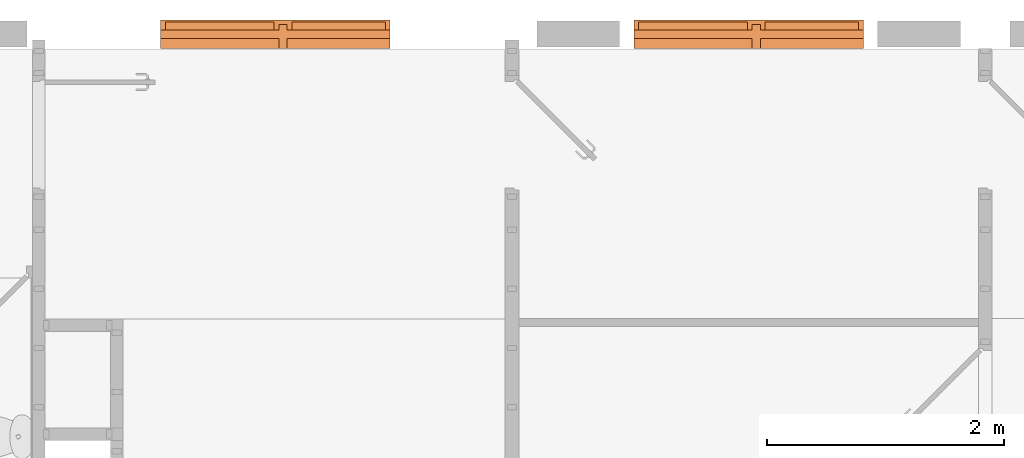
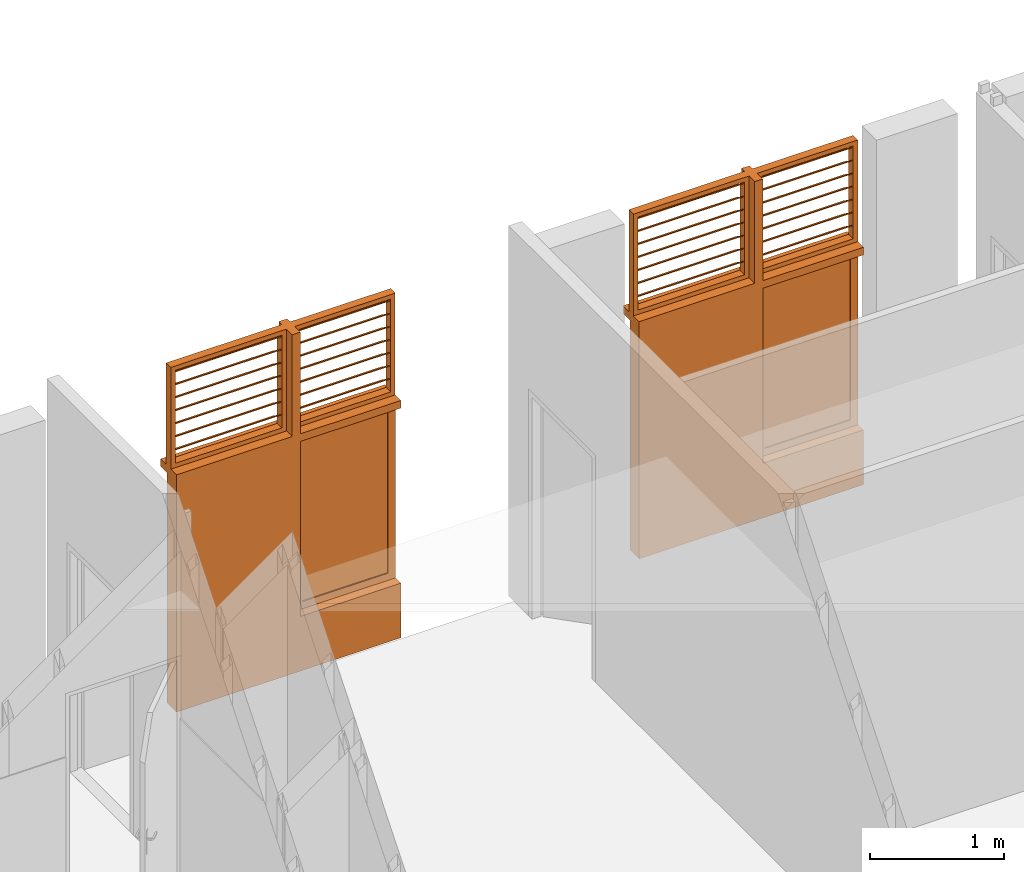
# One storey, part 18 of 20: 2 proxies.
"""IFC2X3 building model written with IfcOpenShell, lengths in metres."""

from ifc_helpers import new_model, entity, si_unit, converted_unit, derived_unit, direction, frame, origin, place, context, subcontext, project, spatial, faceted_brep, source, transform, mapped, material, material_list, type_object, type_shapes, element, save


model = new_model("IFC2X3")

# Units and contexts
model_context = context("Model", 3, precision=1e-05, world=origin(), true_north=direction((6.12303176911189e-17, 1.0)))
body_context = subcontext(model_context, "Body", "Model", "MODEL_VIEW")
ifc_project = project(units=[si_unit("LENGTHUNIT", "METRE"), si_unit("AREAUNIT", "SQUARE_METRE"), si_unit("VOLUMEUNIT", "CUBIC_METRE"), converted_unit("PLANEANGLEUNIT", "DEGREE", entity("IfcRatioMeasure", 0.0174532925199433), si_unit("PLANEANGLEUNIT", "RADIAN"), dimensions=[0, 0, 0, 0, 0, 0, 0]), si_unit("MASSUNIT", "GRAM", prefix="KILO"), derived_unit("MASSDENSITYUNIT", [(si_unit("MASSUNIT", "GRAM", prefix="KILO"), 1), (si_unit("LENGTHUNIT", "METRE"), -3)]), si_unit("TIMEUNIT", "SECOND"), si_unit("FREQUENCYUNIT", "HERTZ"), si_unit("THERMODYNAMICTEMPERATUREUNIT", "DEGREE_CELSIUS"), derived_unit("THERMALTRANSMITTANCEUNIT", [(si_unit("MASSUNIT", "GRAM", prefix="KILO"), 1), (si_unit("THERMODYNAMICTEMPERATUREUNIT", "KELVIN"), -1), (si_unit("TIMEUNIT", "SECOND"), -3)]), derived_unit("VOLUMETRICFLOWRATEUNIT", [(si_unit("LENGTHUNIT", "METRE"), 3), (si_unit("TIMEUNIT", "SECOND"), -1)]), si_unit("ELECTRICCURRENTUNIT", "AMPERE"), si_unit("ELECTRICVOLTAGEUNIT", "VOLT"), si_unit("POWERUNIT", "WATT"), si_unit("FORCEUNIT", "NEWTON", prefix="KILO"), si_unit("ILLUMINANCEUNIT", "LUX"), si_unit("LUMINOUSFLUXUNIT", "LUMEN"), si_unit("LUMINOUSINTENSITYUNIT", "CANDELA"), derived_unit("USERDEFINED", [(si_unit("MASSUNIT", "GRAM", prefix="KILO"), -1), (si_unit("LENGTHUNIT", "METRE"), -2), (si_unit("TIMEUNIT", "SECOND"), 3), (si_unit("LUMINOUSFLUXUNIT", "LUMEN"), 1)]), derived_unit("LINEARVELOCITYUNIT", [(si_unit("LENGTHUNIT", "METRE"), 1), (si_unit("TIMEUNIT", "SECOND"), -1)]), si_unit("PRESSUREUNIT", "PASCAL"), derived_unit("USERDEFINED", [(si_unit("LENGTHUNIT", "METRE"), -2), (si_unit("MASSUNIT", "GRAM", prefix="KILO"), 1), (si_unit("TIMEUNIT", "SECOND"), -2)])], contexts=[model_context])

# Site, building, storey
site_placement = place(None, origin())
site = spatial("IfcSite", under=ifc_project, at=site_placement, Name="Surface", CompositionType="ELEMENT")
building_placement = place(site_placement, origin())
building = spatial("IfcBuilding", under=site, at=building_placement, Name="ExPREF", CompositionType="ELEMENT")
storey_placement = place(building_placement, frame((0.0, 0.0, 4.27)))
storey = spatial("IfcBuildingStorey", under=building, at=storey_placement, Name="R+1", CompositionType="ELEMENT", Elevation=4.27)

# Proxies
ifc_material_1 = material(Name="AA-Aluminium")
ifc_material_2 = material(Name="AA-vitrage")
ifc_material_3 = material(Name="AA-bois menuiseries")
ifc_material_list_1 = material_list([ifc_material_1, ifc_material_2, ifc_material_3])
ifc_material_list_2 = material_list([ifc_material_1, ifc_material_2, ifc_material_3])
building_element_proxy_type = type_object("IfcBuildingElementProxyType", Name="R+2 porte + fenetre", PredefinedType="NOTDEFINED", material=ifc_material_list_2)
shared_shape = source(origin(), body_context, "Body", "Brep", [
    faceted_brep([(0.139999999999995, 0.113917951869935, 3.02140538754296), (0.139999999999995, 0.0970656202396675, 3.03320551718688), (0.139999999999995, 0.101483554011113, 3.03951498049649), (0.139999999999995, 0.11833588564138, 3.02771485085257), (0.930000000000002, 0.113917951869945, 3.02140538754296), (0.930000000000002, 0.118335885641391, 3.02771485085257), (0.930000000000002, 0.101483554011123, 3.03951498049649), (0.930000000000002, 0.0970656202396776, 3.03320551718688)], [[[0, 1, 2, 3]], [[4, 5, 6, 7]], [[1, 0, 4, 7]], [[2, 1, 7, 6]], [[3, 2, 6, 5]], [[0, 3, 5, 4]]]),
    faceted_brep([(0.139999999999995, 0.114720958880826, 3.02255220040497), (0.139999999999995, 0.117588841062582, 3.02664796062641), (0.139999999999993, 0.223609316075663, 2.95241162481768), (0.139999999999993, 0.220741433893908, 2.94831586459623), (0.930000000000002, 0.114720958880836, 3.02255220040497), (0.93, 0.220741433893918, 2.94831586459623), (0.93, 0.223609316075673, 2.95241162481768), (0.930000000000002, 0.117588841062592, 3.02664796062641)], [[[0, 1, 2, 3]], [[4, 5, 6, 7]], [[1, 0, 4, 7]], [[2, 1, 7, 6]], [[3, 2, 6, 5]], [[0, 3, 5, 4]]]),
    faceted_brep([(-0.930000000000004, 0.113917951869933, 3.02140538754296), (-0.930000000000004, 0.097065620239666, 3.03320551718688), (-0.930000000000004, 0.101483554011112, 3.03951498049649), (-0.930000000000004, 0.118335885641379, 3.02771485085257), (-0.00999999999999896, 0.113917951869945, 3.02140538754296), (-0.00999999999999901, 0.118335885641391, 3.02771485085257), (-0.0099999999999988, 0.101483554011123, 3.03951498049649), (-0.00999999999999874, 0.0970656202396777, 3.03320551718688)], [[[0, 1, 2, 3]], [[4, 5, 6, 7]], [[1, 0, 4, 7]], [[2, 1, 7, 6]], [[3, 2, 6, 5]], [[0, 3, 5, 4]]]),
    faceted_brep([(-0.930000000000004, 0.114720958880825, 3.02255220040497), (-0.930000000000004, 0.11758884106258, 3.02664796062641), (-0.930000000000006, 0.223609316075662, 2.95241162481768), (-0.930000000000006, 0.220741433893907, 2.94831586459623), (-0.00999999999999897, 0.114720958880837, 3.02255220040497), (-0.0100000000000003, 0.220741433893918, 2.94831586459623), (-0.0100000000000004, 0.223609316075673, 2.95241162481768), (-0.009999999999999, 0.117588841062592, 3.02664796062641)], [[[0, 1, 2, 3]], [[4, 5, 6, 7]], [[1, 0, 4, 7]], [[2, 1, 7, 6]], [[3, 2, 6, 5]], [[0, 3, 5, 4]]]),
    faceted_brep([(0.139999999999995, 0.113917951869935, 2.90240538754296), (0.139999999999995, 0.0970656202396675, 2.91420551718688), (0.139999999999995, 0.101483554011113, 2.92051498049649), (0.139999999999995, 0.11833588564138, 2.90871485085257), (0.930000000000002, 0.113917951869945, 2.90240538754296), (0.930000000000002, 0.118335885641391, 2.90871485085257), (0.930000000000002, 0.101483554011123, 2.92051498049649), (0.930000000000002, 0.0970656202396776, 2.91420551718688)], [[[0, 1, 2, 3]], [[4, 5, 6, 7]], [[1, 0, 4, 7]], [[2, 1, 7, 6]], [[3, 2, 6, 5]], [[0, 3, 5, 4]]]),
    faceted_brep([(0.139999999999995, 0.114720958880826, 2.90355220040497), (0.139999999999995, 0.117588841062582, 2.90764796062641), (0.139999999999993, 0.223609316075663, 2.83341162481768), (0.139999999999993, 0.220741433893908, 2.82931586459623), (0.930000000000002, 0.114720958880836, 2.90355220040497), (0.93, 0.220741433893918, 2.82931586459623), (0.93, 0.223609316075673, 2.83341162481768), (0.930000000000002, 0.117588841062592, 2.90764796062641)], [[[0, 1, 2, 3]], [[4, 5, 6, 7]], [[1, 0, 4, 7]], [[2, 1, 7, 6]], [[3, 2, 6, 5]], [[0, 3, 5, 4]]]),
    faceted_brep([(-0.930000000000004, 0.113917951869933, 2.90240538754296), (-0.930000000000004, 0.097065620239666, 2.91420551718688), (-0.930000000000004, 0.101483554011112, 2.92051498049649), (-0.930000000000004, 0.118335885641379, 2.90871485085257), (-0.00999999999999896, 0.113917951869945, 2.90240538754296), (-0.00999999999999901, 0.118335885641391, 2.90871485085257), (-0.0099999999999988, 0.101483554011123, 2.92051498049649), (-0.00999999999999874, 0.0970656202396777, 2.91420551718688)], [[[0, 1, 2, 3]], [[4, 5, 6, 7]], [[1, 0, 4, 7]], [[2, 1, 7, 6]], [[3, 2, 6, 5]], [[0, 3, 5, 4]]]),
    faceted_brep([(-0.930000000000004, 0.114720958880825, 2.90355220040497), (-0.930000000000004, 0.11758884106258, 2.90764796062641), (-0.930000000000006, 0.223609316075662, 2.83341162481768), (-0.930000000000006, 0.220741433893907, 2.82931586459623), (-0.00999999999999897, 0.114720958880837, 2.90355220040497), (-0.0100000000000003, 0.220741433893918, 2.82931586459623), (-0.0100000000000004, 0.223609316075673, 2.83341162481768), (-0.009999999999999, 0.117588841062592, 2.90764796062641)], [[[0, 1, 2, 3]], [[4, 5, 6, 7]], [[1, 0, 4, 7]], [[2, 1, 7, 6]], [[3, 2, 6, 5]], [[0, 3, 5, 4]]]),
    faceted_brep([(0.139999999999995, 0.113917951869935, 2.78340538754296), (0.139999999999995, 0.0970656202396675, 2.79520551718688), (0.139999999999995, 0.101483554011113, 2.80151498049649), (0.139999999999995, 0.11833588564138, 2.78971485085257), (0.930000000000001, 0.113917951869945, 2.78340538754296), (0.930000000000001, 0.118335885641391, 2.78971485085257), (0.930000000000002, 0.101483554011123, 2.80151498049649), (0.930000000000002, 0.0970656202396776, 2.79520551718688)], [[[0, 1, 2, 3]], [[4, 5, 6, 7]], [[1, 0, 4, 7]], [[2, 1, 7, 6]], [[3, 2, 6, 5]], [[0, 3, 5, 4]]]),
    faceted_brep([(0.139999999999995, 0.114720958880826, 2.78455220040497), (0.139999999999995, 0.117588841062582, 2.78864796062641), (0.139999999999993, 0.223609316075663, 2.71441162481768), (0.139999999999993, 0.220741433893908, 2.71031586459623), (0.930000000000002, 0.114720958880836, 2.78455220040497), (0.93, 0.220741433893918, 2.71031586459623), (0.93, 0.223609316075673, 2.71441162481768), (0.930000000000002, 0.117588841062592, 2.78864796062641)], [[[0, 1, 2, 3]], [[4, 5, 6, 7]], [[1, 0, 4, 7]], [[2, 1, 7, 6]], [[3, 2, 6, 5]], [[0, 3, 5, 4]]]),
    faceted_brep([(-0.930000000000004, 0.113917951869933, 2.78340538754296), (-0.930000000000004, 0.097065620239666, 2.79520551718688), (-0.930000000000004, 0.101483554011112, 2.80151498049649), (-0.930000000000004, 0.118335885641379, 2.78971485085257), (-0.00999999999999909, 0.113917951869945, 2.78340538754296), (-0.00999999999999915, 0.118335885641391, 2.78971485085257), (-0.00999999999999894, 0.101483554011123, 2.80151498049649), (-0.00999999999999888, 0.0970656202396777, 2.79520551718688)], [[[0, 1, 2, 3]], [[4, 5, 6, 7]], [[1, 0, 4, 7]], [[2, 1, 7, 6]], [[3, 2, 6, 5]], [[0, 3, 5, 4]]]),
    faceted_brep([(-0.930000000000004, 0.114720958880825, 2.78455220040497), (-0.930000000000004, 0.11758884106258, 2.78864796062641), (-0.930000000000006, 0.223609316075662, 2.71441162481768), (-0.930000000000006, 0.220741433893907, 2.71031586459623), (-0.0099999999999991, 0.114720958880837, 2.78455220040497), (-0.0100000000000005, 0.220741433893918, 2.71031586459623), (-0.0100000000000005, 0.223609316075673, 2.71441162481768), (-0.00999999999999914, 0.117588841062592, 2.78864796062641)], [[[0, 1, 2, 3]], [[4, 5, 6, 7]], [[1, 0, 4, 7]], [[2, 1, 7, 6]], [[3, 2, 6, 5]], [[0, 3, 5, 4]]]),
    faceted_brep([(-0.930000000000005, 0.113917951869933, 2.66440538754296), (-0.930000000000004, 0.097065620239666, 2.67620551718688), (-0.930000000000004, 0.101483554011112, 2.68251498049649), (-0.930000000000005, 0.118335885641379, 2.67071485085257), (-0.00999999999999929, 0.113917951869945, 2.66440538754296), (-0.00999999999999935, 0.118335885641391, 2.67071485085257), (-0.00999999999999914, 0.101483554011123, 2.68251498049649), (-0.00999999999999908, 0.0970656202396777, 2.67620551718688)], [[[0, 1, 2, 3]], [[4, 5, 6, 7]], [[1, 0, 4, 7]], [[2, 1, 7, 6]], [[3, 2, 6, 5]], [[0, 3, 5, 4]]]),
    faceted_brep([(-0.930000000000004, 0.114720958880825, 2.66555220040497), (-0.930000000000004, 0.11758884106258, 2.66964796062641), (-0.930000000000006, 0.223609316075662, 2.59541162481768), (-0.930000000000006, 0.220741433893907, 2.59131586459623), (-0.0099999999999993, 0.114720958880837, 2.66555220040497), (-0.0100000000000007, 0.220741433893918, 2.59131586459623), (-0.0100000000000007, 0.223609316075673, 2.59541162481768), (-0.00999999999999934, 0.117588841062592, 2.66964796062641)], [[[0, 1, 2, 3]], [[4, 5, 6, 7]], [[1, 0, 4, 7]], [[2, 1, 7, 6]], [[3, 2, 6, 5]], [[0, 3, 5, 4]]]),
    faceted_brep([(-0.930000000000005, 0.113917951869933, 2.54540538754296), (-0.930000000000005, 0.097065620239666, 2.55720551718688), (-0.930000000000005, 0.101483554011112, 2.56351498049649), (-0.930000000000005, 0.118335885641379, 2.55171485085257), (-0.0099999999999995, 0.113917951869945, 2.54540538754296), (-0.00999999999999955, 0.118335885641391, 2.55171485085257), (-0.00999999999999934, 0.101483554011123, 2.56351498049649), (-0.00999999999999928, 0.0970656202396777, 2.55720551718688)], [[[0, 1, 2, 3]], [[4, 5, 6, 7]], [[1, 0, 4, 7]], [[2, 1, 7, 6]], [[3, 2, 6, 5]], [[0, 3, 5, 4]]]),
    faceted_brep([(-0.930000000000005, 0.114720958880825, 2.54655220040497), (-0.930000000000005, 0.11758884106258, 2.55064796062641), (-0.930000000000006, 0.223609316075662, 2.47641162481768), (-0.930000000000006, 0.220741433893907, 2.47231586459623), (-0.00999999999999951, 0.114720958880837, 2.54655220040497), (-0.0100000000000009, 0.220741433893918, 2.47231586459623), (-0.0100000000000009, 0.223609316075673, 2.47641162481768), (-0.00999999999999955, 0.117588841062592, 2.55064796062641)], [[[0, 1, 2, 3]], [[4, 5, 6, 7]], [[1, 0, 4, 7]], [[2, 1, 7, 6]], [[3, 2, 6, 5]], [[0, 3, 5, 4]]]),
    faceted_brep([(0.139999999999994, 0.113917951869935, 2.66440538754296), (0.139999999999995, 0.0970656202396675, 2.67620551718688), (0.139999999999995, 0.101483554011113, 2.68251498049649), (0.139999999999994, 0.11833588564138, 2.67071485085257), (0.930000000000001, 0.113917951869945, 2.66440538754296), (0.930000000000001, 0.118335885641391, 2.67071485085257), (0.930000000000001, 0.101483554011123, 2.68251498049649), (0.930000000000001, 0.0970656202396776, 2.67620551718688)], [[[0, 1, 2, 3]], [[4, 5, 6, 7]], [[1, 0, 4, 7]], [[2, 1, 7, 6]], [[3, 2, 6, 5]], [[0, 3, 5, 4]]]),
    faceted_brep([(0.139999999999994, 0.114720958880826, 2.66555220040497), (0.139999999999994, 0.117588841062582, 2.66964796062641), (0.139999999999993, 0.223609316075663, 2.59541162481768), (0.139999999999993, 0.220741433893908, 2.59131586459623), (0.930000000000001, 0.114720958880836, 2.66555220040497), (0.93, 0.220741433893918, 2.59131586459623), (0.93, 0.223609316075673, 2.59541162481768), (0.930000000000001, 0.117588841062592, 2.66964796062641)], [[[0, 1, 2, 3]], [[4, 5, 6, 7]], [[1, 0, 4, 7]], [[2, 1, 7, 6]], [[3, 2, 6, 5]], [[0, 3, 5, 4]]]),
    faceted_brep([(0.139999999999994, 0.113917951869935, 2.54540538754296), (0.139999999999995, 0.0970656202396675, 2.55720551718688), (0.139999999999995, 0.101483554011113, 2.56351498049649), (0.139999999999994, 0.11833588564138, 2.55171485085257), (0.930000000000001, 0.113917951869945, 2.54540538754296), (0.930000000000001, 0.118335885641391, 2.55171485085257), (0.930000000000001, 0.101483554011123, 2.56351498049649), (0.930000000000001, 0.0970656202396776, 2.55720551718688)], [[[0, 1, 2, 3]], [[4, 5, 6, 7]], [[1, 0, 4, 7]], [[2, 1, 7, 6]], [[3, 2, 6, 5]], [[0, 3, 5, 4]]]),
    faceted_brep([(0.139999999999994, 0.114720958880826, 2.54655220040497), (0.139999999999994, 0.117588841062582, 2.55064796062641), (0.139999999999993, 0.223609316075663, 2.47641162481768), (0.139999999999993, 0.220741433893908, 2.47231586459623), (0.930000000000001, 0.114720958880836, 2.54655220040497), (0.93, 0.220741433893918, 2.47231586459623), (0.93, 0.223609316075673, 2.47641162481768), (0.930000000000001, 0.117588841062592, 2.55064796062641)], [[[0, 1, 2, 3]], [[4, 5, 6, 7]], [[1, 0, 4, 7]], [[2, 1, 7, 6]], [[3, 2, 6, 5]], [[0, 3, 5, 4]]]),
    faceted_brep([(0.139999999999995, 0.113917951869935, 2.42640538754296), (0.139999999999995, 0.0970656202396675, 2.43820551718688), (0.139999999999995, 0.101483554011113, 2.44451498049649), (0.139999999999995, 0.11833588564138, 2.43271485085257), (0.930000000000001, 0.113917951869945, 2.42640538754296), (0.930000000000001, 0.118335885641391, 2.43271485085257), (0.930000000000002, 0.101483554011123, 2.44451498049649), (0.930000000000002, 0.0970656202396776, 2.43820551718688)], [[[0, 1, 2, 3]], [[4, 5, 6, 7]], [[1, 0, 4, 7]], [[2, 1, 7, 6]], [[3, 2, 6, 5]], [[0, 3, 5, 4]]]),
    faceted_brep([(0.139999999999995, 0.114720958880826, 2.42755220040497), (0.139999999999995, 0.117588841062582, 2.43164796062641), (0.139999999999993, 0.223609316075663, 2.35741162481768), (0.139999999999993, 0.220741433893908, 2.35331586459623), (0.930000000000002, 0.114720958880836, 2.42755220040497), (0.93, 0.220741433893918, 2.35331586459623), (0.93, 0.223609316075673, 2.35741162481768), (0.930000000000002, 0.117588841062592, 2.43164796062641)], [[[0, 1, 2, 3]], [[4, 5, 6, 7]], [[1, 0, 4, 7]], [[2, 1, 7, 6]], [[3, 2, 6, 5]], [[0, 3, 5, 4]]]),
    faceted_brep([(0.139999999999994, 0.113917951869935, 2.30740538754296), (0.139999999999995, 0.0970656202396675, 2.31920551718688), (0.139999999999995, 0.101483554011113, 2.32551498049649), (0.139999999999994, 0.11833588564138, 2.31371485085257), (0.930000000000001, 0.113917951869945, 2.30740538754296), (0.930000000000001, 0.118335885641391, 2.31371485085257), (0.930000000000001, 0.101483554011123, 2.32551498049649), (0.930000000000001, 0.0970656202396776, 2.31920551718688)], [[[0, 1, 2, 3]], [[4, 5, 6, 7]], [[1, 0, 4, 7]], [[2, 1, 7, 6]], [[3, 2, 6, 5]], [[0, 3, 5, 4]]]),
    faceted_brep([(0.139999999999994, 0.114720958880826, 2.30855220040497), (0.139999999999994, 0.117588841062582, 2.31264796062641), (0.139999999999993, 0.223609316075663, 2.23841162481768), (0.139999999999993, 0.220741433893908, 2.23431586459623), (0.930000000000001, 0.114720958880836, 2.30855220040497), (0.93, 0.220741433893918, 2.23431586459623), (0.93, 0.223609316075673, 2.23841162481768), (0.930000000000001, 0.117588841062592, 2.31264796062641)], [[[0, 1, 2, 3]], [[4, 5, 6, 7]], [[1, 0, 4, 7]], [[2, 1, 7, 6]], [[3, 2, 6, 5]], [[0, 3, 5, 4]]]),
    faceted_brep([(-0.930000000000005, 0.113917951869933, 2.42640538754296), (-0.930000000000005, 0.097065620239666, 2.43820551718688), (-0.930000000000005, 0.101483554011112, 2.44451498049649), (-0.930000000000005, 0.118335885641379, 2.43271485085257), (-0.0099999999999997, 0.113917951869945, 2.42640538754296), (-0.00999999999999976, 0.118335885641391, 2.43271485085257), (-0.00999999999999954, 0.101483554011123, 2.44451498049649), (-0.00999999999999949, 0.0970656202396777, 2.43820551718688)], [[[0, 1, 2, 3]], [[4, 5, 6, 7]], [[1, 0, 4, 7]], [[2, 1, 7, 6]], [[3, 2, 6, 5]], [[0, 3, 5, 4]]]),
    faceted_brep([(-0.930000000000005, 0.114720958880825, 2.42755220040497), (-0.930000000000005, 0.11758884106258, 2.43164796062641), (-0.930000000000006, 0.223609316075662, 2.35741162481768), (-0.930000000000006, 0.220741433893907, 2.35331586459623), (-0.00999999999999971, 0.114720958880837, 2.42755220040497), (-0.0100000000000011, 0.220741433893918, 2.35331586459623), (-0.0100000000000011, 0.223609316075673, 2.35741162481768), (-0.00999999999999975, 0.117588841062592, 2.43164796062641)], [[[0, 1, 2, 3]], [[4, 5, 6, 7]], [[1, 0, 4, 7]], [[2, 1, 7, 6]], [[3, 2, 6, 5]], [[0, 3, 5, 4]]]),
    faceted_brep([(-0.930000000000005, 0.113917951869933, 2.30740538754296), (-0.930000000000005, 0.097065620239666, 2.31920551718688), (-0.930000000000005, 0.101483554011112, 2.32551498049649), (-0.930000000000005, 0.118335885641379, 2.31371485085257), (-0.0099999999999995, 0.113917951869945, 2.30740538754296), (-0.00999999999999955, 0.118335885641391, 2.31371485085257), (-0.00999999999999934, 0.101483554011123, 2.32551498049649), (-0.00999999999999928, 0.0970656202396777, 2.31920551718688)], [[[0, 1, 2, 3]], [[4, 5, 6, 7]], [[1, 0, 4, 7]], [[2, 1, 7, 6]], [[3, 2, 6, 5]], [[0, 3, 5, 4]]]),
    faceted_brep([(-0.930000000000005, 0.114720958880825, 2.30855220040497), (-0.930000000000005, 0.11758884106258, 2.31264796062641), (-0.930000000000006, 0.223609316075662, 2.23841162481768), (-0.930000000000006, 0.220741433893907, 2.23431586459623), (-0.00999999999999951, 0.114720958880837, 2.30855220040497), (-0.0100000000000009, 0.220741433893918, 2.23431586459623), (-0.0100000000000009, 0.223609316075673, 2.23841162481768), (-0.00999999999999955, 0.117588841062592, 2.31264796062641)], [[[0, 1, 2, 3]], [[4, 5, 6, 7]], [[1, 0, 4, 7]], [[2, 1, 7, 6]], [[3, 2, 6, 5]], [[0, 3, 5, 4]]]),
    faceted_brep([(0.904999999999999, 0.0900000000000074, 2.03499999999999), (0.164999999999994, 0.0900000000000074, 2.03499999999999), (0.164999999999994, 0.0900000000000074, 0.564999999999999), (0.904999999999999, 0.0900000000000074, 0.564999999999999), (0.904999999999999, 0.110000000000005, 2.03499999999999), (0.904999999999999, 0.110000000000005, 0.564999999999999), (0.164999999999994, 0.110000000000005, 0.564999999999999), (0.164999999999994, 0.110000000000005, 2.03499999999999)], [[[0, 1, 2, 3]], [[4, 5, 6, 7]], [[0, 4, 7, 1]], [[1, 7, 6, 2]], [[2, 6, 5, 3]], [[3, 5, 4, 0]]]),
    faceted_brep([(0.934999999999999, 0.0800000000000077, 2.065), (0.934999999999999, 0.0800000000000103, 0.534999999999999), (0.934999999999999, 0.120000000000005, 0.534999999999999), (0.934999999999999, 0.120000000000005, 2.065), (0.904999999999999, 0.120000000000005, 2.035), (0.904999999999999, 0.120000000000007, 0.564999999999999), (0.904999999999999, 0.0800000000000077, 0.564999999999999), (0.904999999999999, 0.0800000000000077, 2.03499999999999), (0.134999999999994, 0.0800000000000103, 0.534999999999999), (0.134999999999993, 0.120000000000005, 0.534999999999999), (0.164999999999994, 0.120000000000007, 0.564999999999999), (0.164999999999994, 0.0800000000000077, 0.564999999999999), (0.134999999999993, 0.0800000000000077, 2.065), (0.134999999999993, 0.120000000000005, 2.065), (0.164999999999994, 0.120000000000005, 2.035), (0.164999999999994, 0.0800000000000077, 2.03499999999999)], [[[0, 1, 2, 3]], [[4, 5, 6, 7]], [[1, 8, 9, 2]], [[5, 10, 11, 6]], [[8, 12, 13, 9]], [[10, 14, 15, 11]], [[3, 2, 9, 13], [5, 4, 14, 10]], [[12, 0, 3, 13]], [[1, 0, 12, 8], [7, 6, 11, 15]], [[14, 4, 7, 15]]]),
    faceted_brep([(0.969999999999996, 0.140000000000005, 0.500000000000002), (0.969999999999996, 0.139999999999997, 2.09999999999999), (0.969999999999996, 0.080000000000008, 2.09999999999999), (0.969999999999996, 0.080000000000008, 0.500000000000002), (0.919999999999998, 0.120000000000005, 0.549999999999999), (0.919999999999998, 0.119999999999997, 2.05), (0.919999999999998, 0.140000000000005, 2.04999999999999), (0.919999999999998, 0.140000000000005, 0.549999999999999), (0.934999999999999, 0.0800000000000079, 0.534999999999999), (0.934999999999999, 0.08, 2.065), (0.934999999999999, 0.120000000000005, 2.065), (0.934999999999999, 0.120000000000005, 0.534999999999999), (0.099999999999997, 0.139999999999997, 2.09999999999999), (0.0999999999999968, 0.080000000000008, 2.09999999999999), (0.149999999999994, 0.119999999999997, 2.05), (0.149999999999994, 0.140000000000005, 2.04999999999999), (0.134999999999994, 0.08, 2.065), (0.134999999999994, 0.120000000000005, 2.065), (0.0999999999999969, 0.140000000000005, 0.500000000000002), (0.0999999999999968, 0.080000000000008, 0.500000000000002), (0.149999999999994, 0.120000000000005, 0.549999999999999), (0.149999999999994, 0.140000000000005, 0.549999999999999), (0.134999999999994, 0.0800000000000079, 0.534999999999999), (0.134999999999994, 0.120000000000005, 0.534999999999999)], [[[0, 1, 2, 3]], [[4, 5, 6, 7]], [[8, 9, 10, 11]], [[1, 12, 13, 2]], [[5, 14, 15, 6]], [[9, 16, 17, 10]], [[12, 18, 19, 13]], [[14, 20, 21, 15]], [[16, 22, 23, 17]], [[3, 2, 13, 19], [9, 8, 22, 16]], [[18, 0, 3, 19]], [[1, 0, 18, 12], [7, 6, 15, 21]], [[20, 4, 7, 21]], [[5, 4, 20, 14], [11, 10, 17, 23]], [[22, 8, 11, 23]]], outer=[[True], [True], [True], [True], [True], [True], [True], [True], [True], [True, False], [True], [True, False], [True], [False, True], [True]]),
    faceted_brep([(-0.97, 0.155, 2.17), (-0.97, 0.155, 3.10000000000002), (0.0299999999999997, 0.155, 3.10000000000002), (0.0299999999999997, 0.155, 2.17), (-0.930000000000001, 0.155, 2.21), (-0.0100000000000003, 0.155, 2.21), (-0.0100000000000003, 0.155, 3.06000000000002), (-0.930000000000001, 0.155, 3.06000000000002), (-0.930000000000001, 0.085000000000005, 2.21), (-0.930000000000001, 0.085000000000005, 3.06000000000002), (-0.0100000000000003, 0.085000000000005, 3.06000000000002), (-0.0100000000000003, 0.085000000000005, 2.21), (-0.97, 0.085000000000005, 2.17), (0.0299999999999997, 0.085000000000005, 2.17), (0.0299999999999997, 0.085000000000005, 3.10000000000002), (-0.97, 0.085000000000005, 3.10000000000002)], [[[0, 1, 2, 3], [4, 5, 6, 7]], [[8, 9, 10, 11], [12, 13, 14, 15]], [[3, 13, 12, 0]], [[4, 8, 11, 5]], [[0, 12, 15, 1]], [[7, 9, 8, 4]], [[2, 14, 13, 3]], [[5, 11, 10, 6]], [[1, 15, 14, 2]], [[6, 10, 9, 7]]], outer=[[True, False], [False, True], [True], [True], [True], [True], [True], [True], [True], [True]]),
    faceted_brep([(0.0999999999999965, 0.155, 2.16999999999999), (0.0999999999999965, 0.155, 3.10000000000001), (0.970000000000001, 0.155, 3.10000000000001), (0.970000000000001, 0.155, 2.16999999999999), (0.139999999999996, 0.155, 2.20999999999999), (0.930000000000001, 0.155, 2.20999999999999), (0.930000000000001, 0.155, 3.06000000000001), (0.139999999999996, 0.155, 3.06000000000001), (0.139999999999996, 0.085000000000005, 2.20999999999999), (0.139999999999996, 0.085000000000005, 3.06000000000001), (0.930000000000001, 0.085000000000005, 3.06000000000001), (0.930000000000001, 0.085000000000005, 2.20999999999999), (0.0999999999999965, 0.085000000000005, 2.16999999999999), (0.970000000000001, 0.085000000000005, 2.16999999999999), (0.970000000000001, 0.085000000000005, 3.10000000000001), (0.0999999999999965, 0.085000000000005, 3.10000000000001)], [[[0, 1, 2, 3], [4, 5, 6, 7]], [[8, 9, 10, 11], [12, 13, 14, 15]], [[3, 13, 12, 0]], [[2, 14, 13, 3]], [[5, 11, 10, 6]], [[4, 8, 11, 5]], [[0, 12, 15, 1]], [[7, 9, 8, 4]], [[1, 15, 14, 2]], [[6, 10, 9, 7]]], outer=[[True, False], [False, True], [True], [True], [True], [True], [True], [True], [True], [True]]),
    faceted_brep([(0.0999999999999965, 0.2, 3.10000000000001), (0.0999999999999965, 0.2, 2.17), (0.0299999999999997, 0.2, 2.17), (0.0299999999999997, 0.2, 3.10000000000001), (0.0299999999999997, 0.0, 3.10000000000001), (0.0999999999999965, 0.0, 3.10000000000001), (0.0999999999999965, 0.0, 2.17), (0.0299999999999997, 0.0, 2.17)], [[[0, 1, 2, 3]], [[3, 4, 5, 0]], [[0, 5, 6, 1]], [[2, 7, 4, 3]], [[1, 6, 7, 2]], [[5, 4, 7, 6]]]),
    faceted_brep([(0.0299999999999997, 0.0, 2.1), (0.0299999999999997, 0.0, 0.0), (0.0999999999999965, 0.0, 0.0), (0.0999999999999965, 0.0, 2.1), (0.0299999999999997, 0.2, 0.0), (0.0299999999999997, 0.2, 2.1), (0.0999999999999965, 0.2, 0.0), (0.0999999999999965, 0.2, 2.1)], [[[0, 1, 2, 3]], [[4, 1, 0, 5]], [[6, 2, 1, 4]], [[7, 3, 2, 6]], [[5, 0, 3, 7]], [[5, 7, 6, 4]]]),
    faceted_brep([(-0.0050000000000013, 0.0, 2.065), (-0.0050000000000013, 0.0400000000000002, 2.065), (-0.935000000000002, 0.0400000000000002, 2.065), (-0.935000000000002, 0.0, 2.065), (-0.0050000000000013, 0.0, 0.0), (-0.935000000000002, 0.0, 0.0), (-0.935000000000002, 0.0400000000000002, 0.0), (-0.0050000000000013, 0.0400000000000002, 0.0)], [[[0, 1, 2, 3]], [[4, 5, 6, 7]], [[3, 5, 4, 0]], [[2, 6, 5, 3]], [[1, 7, 6, 2]], [[0, 4, 7, 1]]]),
    faceted_brep([(-0.970000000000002, 0.14, 0.0), (-0.920000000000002, 0.14, 0.0), (-0.920000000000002, 0.0400000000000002, 0.0), (-0.935000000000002, 0.0400000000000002, 0.0), (-0.935000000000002, 0.0, 0.0), (-0.970000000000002, 0.0, 0.0), (-0.969999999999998, 0.0, 2.1), (-0.969999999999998, 0.14, 2.1), (-0.934999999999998, 0.0, 2.065), (-0.004999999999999, 0.0, 2.065), (-0.00500000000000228, 0.0, 0.0), (0.0299999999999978, 0.0, 0.0), (0.0300000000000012, 0.0, 2.1), (-0.934999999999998, 0.0400000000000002, 2.065), (0.0300000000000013, 0.14, 2.1), (0.0299999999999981, 0.14, 0.0), (-0.0200000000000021, 0.140000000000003, 0.0), (-0.0199999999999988, 0.140000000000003, 2.05), (-0.919999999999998, 0.14, 2.05), (-0.004999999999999, 0.0400000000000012, 2.065), (-0.00500000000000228, 0.0400000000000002, 0.0), (-0.0200000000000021, 0.0400000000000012, 0.0), (-0.919999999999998, 0.0400000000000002, 2.05), (-0.0199999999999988, 0.0400000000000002, 2.05)], [[[0, 1, 2, 3, 4, 5]], [[5, 6, 7, 0]], [[4, 8, 9, 10, 11, 12, 6, 5]], [[3, 13, 8, 4]], [[0, 7, 14, 15, 16, 17, 18, 1]], [[6, 12, 14, 7]], [[13, 19, 9, 8]], [[15, 11, 10, 20, 21, 16]], [[2, 22, 23, 21, 20, 19, 13, 3]], [[1, 18, 22, 2]], [[18, 17, 23, 22]], [[12, 11, 15, 14]], [[19, 20, 10, 9]], [[17, 16, 21, 23]]]),
    faceted_brep([(0.970000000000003, 0.140000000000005, 0.0), (0.0999999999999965, 0.140000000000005, 0.0), (0.0999999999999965, 0.140000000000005, 0.500000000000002), (0.970000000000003, 0.140000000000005, 0.500000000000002), (0.970000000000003, 0.0, 0.0), (0.970000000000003, 0.0, 0.500000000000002), (0.0999999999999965, 0.0, 0.500000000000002), (0.0999999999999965, 0.0, 0.0)], [[[0, 1, 2, 3]], [[4, 5, 6, 7]], [[3, 5, 4, 0]], [[2, 6, 5, 3]], [[1, 7, 6, 2]], [[0, 4, 7, 1]]]),
    faceted_brep([(0.97, 0.24, 2.09999999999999), (-0.97, 0.24, 2.1), (-0.97, 0.24, 2.17), (0.970000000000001, 0.24, 2.16999999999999), (0.97, 0.0, 2.09999999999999), (0.97, 0.0, 2.16999999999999), (-0.970000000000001, 0.0, 2.17), (-0.97, 0.0, 2.1)], [[[0, 1, 2, 3]], [[4, 5, 6, 7]], [[3, 5, 4, 0]], [[1, 7, 6, 2]], [[0, 4, 7, 1]], [[2, 6, 5, 3]]]),
])
type_shapes(building_element_proxy_type, [shared_shape])
proxy_1_placement = place(storey_placement, frame((51.4897436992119, -185.17648794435, 0.0)))
element("IfcBuildingElementProxy", 1, at=proxy_1_placement, inside=storey, type_object=building_element_proxy_type, material=ifc_material_list_1, Name="R+1 porte + fenetre:R+2 porte + fenetre", ObjectType="R+2 porte + fenetre", context=body_context, shape_type="MappedRepresentation", body=[
    mapped(shared_shape, transform((0.0, 0.0, 0.0), scale=1.0)),
])
ifc_material_list_3 = material_list([ifc_material_1, ifc_material_2, ifc_material_3])
proxy_2_placement = place(storey_placement, frame((55.4897436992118, -185.17648794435, 0.0)))
element("IfcBuildingElementProxy", 2, at=proxy_2_placement, inside=storey, type_object=building_element_proxy_type, material=ifc_material_list_3, Name="R+1 porte + fenetre:R+2 porte + fenetre", ObjectType="R+2 porte + fenetre", context=body_context, shape_type="MappedRepresentation", body=[
    mapped(shared_shape, transform((0.0, 0.0, 0.0), scale=1.0)),
])

save(model, "model.ifc")
